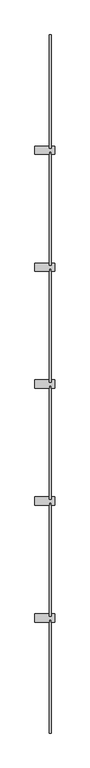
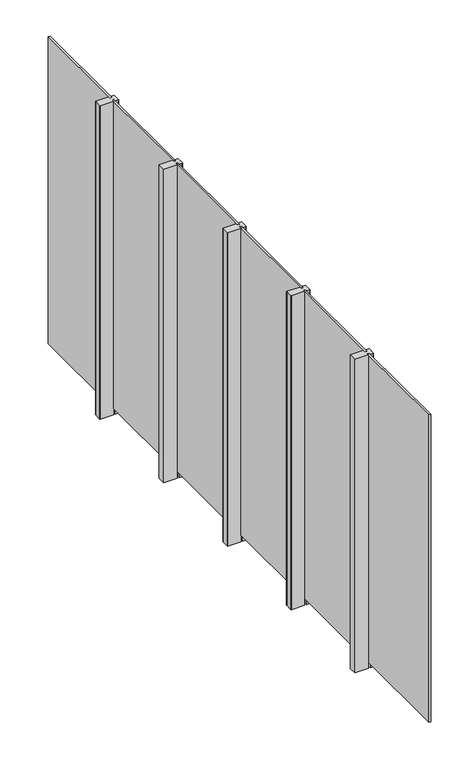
"""IFC4 building model written with IfcOpenShell, lengths in millimetres: railing geometry, TOP STEEL CHANNEL WELD_TOP MOUNT STRUC_GLASS_8'."""

import ifcopenshell
import ifcopenshell.guid

model = None  # the IFC model being written
_history = None  # IfcOwnerHistory: only IFC2X3 demands one
_inside = {}  # id of a spatial element -> (the spatial element, [elements in it])
_under = {}  # id of a project, library or spatial element -> (it, [spatial elements below it])
_declared = {}  # id of a project -> (the project, [libraries it declares])
_typed = {}  # id of a type object -> (the type object, [elements of that type])
_made_of = {}  # id of a material, layer set ... -> (it, [elements and type objects made of it])


def new_model(schema):
    """Start an empty IFC model of exactly this schema.

    Asked for "IFC4X3", IfcOpenShell would pick the latest addendum, in which some entities
    have other attributes; the version numbers below select the first issue.
    IFC2X3 requires an IfcOwnerHistory on every rooted entity: one is made here for all.
    """
    global model, _history
    if schema == "IFC4X3":
        model = ifcopenshell.file(schema_version=(4, 3, 0, 0))
    else:
        model = ifcopenshell.file(schema=schema)
    _inside.clear()
    _under.clear()
    _declared.clear()
    _typed.clear()
    _made_of.clear()
    _history = None
    if model.schema == "IFC2X3":
        org = make("IfcOrganization", Name="unknown")
        user = make(
            "IfcPersonAndOrganization",
            ThePerson=make("IfcPerson", FamilyName="unknown"),
            TheOrganization=org,
        )
        app = make(
            "IfcApplication",
            ApplicationDeveloper=org,
            Version="unknown",
            ApplicationFullName="unknown",
            ApplicationIdentifier="unknown",
        )
        _history = make(
            "IfcOwnerHistory",
            OwningUser=user,
            OwningApplication=app,
            ChangeAction="ADDED",
            CreationDate=0,
        )
    return model


def make(cls, **values):
    """One entity of the class cls with the attributes given. An attribute that is None is left unset."""
    return model.create_entity(
        cls, **{name: value for name, value in values.items() if value is not None}
    )


def rooted(cls, **values):
    """An entity with a GlobalId (a new one), such as an element, a storey or a relation."""
    return make(cls, GlobalId=ifcopenshell.guid.new(), OwnerHistory=_history, **values)


def si_unit(unit_type, name, prefix=None):
    """IfcSIUnit, for example si_unit("LENGTHUNIT", "METRE", prefix="MILLI")."""
    return make("IfcSIUnit", UnitType=unit_type, Prefix=prefix, Name=name)


def assignment(units):
    """IfcUnitAssignment: the units of a project."""
    return None if units is None else make("IfcUnitAssignment", Units=units)


def point(xyz):
    """IfcCartesianPoint."""
    return None if xyz is None else make("IfcCartesianPoint", Coordinates=xyz)


def direction(xyz):
    """IfcDirection."""
    return None if xyz is None else make("IfcDirection", DirectionRatios=xyz)


def frame(location, z_axis=None, x_axis=None):
    """IfcAxis2Placement3D, a coordinate frame: its origin and axes. An axis left out is left unset."""
    return make(
        "IfcAxis2Placement3D",
        Location=point(location),
        Axis=direction(z_axis),
        RefDirection=direction(x_axis),
    )


def frame_2d(location, x_axis=None):
    """IfcAxis2Placement2D, a coordinate frame in the plane: its origin and x axis."""
    return make(
        "IfcAxis2Placement2D", Location=point(location), RefDirection=direction(x_axis)
    )


def origin():
    """The frame at (0, 0, 0) with its axes left unset."""
    return frame((0.0, 0.0, 0.0))


def origin_with_axes():
    """The frame at (0, 0, 0) with the z axis (0, 0, 1) and the x axis (1, 0, 0) written out."""
    return frame((0.0, 0.0, 0.0), z_axis=(0.0, 0.0, 1.0), x_axis=(1.0, 0.0, 0.0))


def place(relative_to, where):
    """IfcLocalPlacement: puts the frame where relative to a parent placement (None: the world)."""
    return make(
        "IfcLocalPlacement", PlacementRelTo=relative_to, RelativePlacement=where
    )


def context(
    kind, dimensions, precision=None, world=None, true_north=None, identifier=None
):
    """IfcGeometricRepresentationContext, for example the 3D "Model" context."""
    return make(
        "IfcGeometricRepresentationContext",
        ContextIdentifier=identifier,
        ContextType=kind,
        CoordinateSpaceDimension=dimensions,
        Precision=precision,
        WorldCoordinateSystem=world,
        TrueNorth=true_north,
    )


def project(units=None, contexts=None):
    """IfcProject with its units and contexts."""
    return rooted(
        "IfcProject",
        Name="project",
        RepresentationContexts=contexts,
        UnitsInContext=assignment(units),
    )


def spatial(cls, under=None, at=None, **own):
    """A site, building, storey or space (cls), placed at a placement, below another one or the project."""
    s = rooted(cls, ObjectPlacement=at, **own)
    if under is not None:
        _under.setdefault(under.id(), (under, []))[1].append(s)
    return s


def polyline(points):
    """IfcPolyline through the points."""
    return make("IfcPolyline", Points=[point(p) for p in points])


def circle_curve(where, radius):
    """IfcCircle in the frame where."""
    return make("IfcCircle", Position=where, Radius=radius)


def trimmed(basis, trim1, trim2, sense, master):
    """IfcTrimmedCurve: the piece of a basis curve between two trims."""
    return make(
        "IfcTrimmedCurve",
        BasisCurve=basis,
        Trim1=trim1,
        Trim2=trim2,
        SenseAgreement=sense,
        MasterRepresentation=master,
    )


def segment(curve, same_sense, transition):
    """IfcCompositeCurveSegment."""
    return make(
        "IfcCompositeCurveSegment",
        Transition=transition,
        SameSense=same_sense,
        ParentCurve=curve,
    )


def composite_curve(segments, self_intersect=None):
    """IfcCompositeCurve: segments joined end to end."""
    return make("IfcCompositeCurve", Segments=segments, SelfIntersect=self_intersect)


def outline(outer, holes=None, kind="AREA"):
    """IfcArbitraryClosedProfileDef: a profile drawn as a closed curve; with holes, ...WithVoids."""
    if holes is None:
        return make("IfcArbitraryClosedProfileDef", ProfileType=kind, OuterCurve=outer)
    return make(
        "IfcArbitraryProfileDefWithVoids",
        ProfileType=kind,
        OuterCurve=outer,
        InnerCurves=holes,
    )


def extrude(swept, where, along, depth):
    """IfcExtrudedAreaSolid: the profile swept, set in the frame where, extruded along a direction by depth."""
    return make(
        "IfcExtrudedAreaSolid",
        SweptArea=swept,
        Position=where,
        ExtrudedDirection=direction(along),
        Depth=depth,
    )


def shape(context_of_items, identifier, shape_type, items):
    """IfcShapeRepresentation: the items that make up one representation, for example the "Body"."""
    return make(
        "IfcShapeRepresentation",
        ContextOfItems=context_of_items,
        RepresentationIdentifier=identifier,
        RepresentationType=shape_type,
        Items=items,
    )


def source(mapping_origin, context_of_items, identifier, shape_type, items):
    """IfcRepresentationMap: a shape defined once, which mapped items show again and again."""
    return make(
        "IfcRepresentationMap",
        MappingOrigin=mapping_origin,
        MappedRepresentation=shape(context_of_items, identifier, shape_type, items),
    )


def transform(
    local_origin,
    x_axis=None,
    y_axis=None,
    z_axis=None,
    scale=None,
    scale2=None,
    scale3=None,
    uniform=True,
):
    """IfcCartesianTransformationOperator3D, or its non-uniform kind. x_axis, y_axis, z_axis: its Axis1, 2, 3."""
    if uniform:
        return make(
            "IfcCartesianTransformationOperator3D",
            Axis1=direction(x_axis),
            Axis2=direction(y_axis),
            LocalOrigin=point(local_origin),
            Scale=scale,
            Axis3=direction(z_axis),
        )
    return make(
        "IfcCartesianTransformationOperator3DnonUniform",
        Axis1=direction(x_axis),
        Axis2=direction(y_axis),
        LocalOrigin=point(local_origin),
        Scale=scale,
        Axis3=direction(z_axis),
        Scale2=scale2,
        Scale3=scale3,
    )


def mapped(mapping_source, mapping_target):
    """IfcMappedItem: shows the shape of a source again, moved by a transform."""
    return make(
        "IfcMappedItem", MappingSource=mapping_source, MappingTarget=mapping_target
    )


def made_of(thing, what):
    """Note that an element or type object is made of a material, layer set ...; save() writes the relation."""
    if what is not None:
        _made_of.setdefault(what.id(), (what, []))[1].append(thing)
    return thing


def element(
    cls,
    number,
    at=None,
    inside=None,
    cuts=None,
    type_object=None,
    material=None,
    context=None,
    identifier="Body",
    shape_type=None,
    held_by="IfcProductDefinitionShape",
    body=None,
    shapes=None,
    **own,
):
    """One element of the class cls, such as IfcWall. Its Tag is "e" and its number.

    at: its placement. inside: the storey or other place that contains it. cuts: it is an
    opening in that element (IfcRelVoidsElement). A single representation is given by context,
    identifier, shape_type and body (its items); several are given by shapes. held_by: the class
    of the entity that holds the representations. save() writes the other relations.
    """
    e = rooted(cls, Tag="e%d" % number, ObjectPlacement=at, **own)
    if body is not None:
        shapes = [shape(context, identifier, shape_type, body)]
    if shapes is not None:
        e.Representation = make(held_by, Representations=shapes)
    if inside is not None:
        _inside.setdefault(inside.id(), (inside, []))[1].append(e)
    if cuts is not None:
        rooted(
            "IfcRelVoidsElement", RelatingBuildingElement=cuts, RelatedOpeningElement=e
        )
    if type_object is not None:
        _typed.setdefault(type_object.id(), (type_object, []))[1].append(e)
    return made_of(e, material)


def aggregate(whole, parts):
    """IfcRelAggregates: a whole, such as a stair, and the parts it consists of."""
    return rooted("IfcRelAggregates", RelatingObject=whole, RelatedObjects=parts)


def save(model, path):
    """Write the relations noted so far, then the file.

    IfcRelAggregates (storeys below a building ...), IfcRelContainedInSpatialStructure (elements
    in a storey), IfcRelDefinesByType, IfcRelAssociatesMaterial and IfcRelDeclares: one each for
    every whole, place, type object, material and project.
    """
    for whole, parts in _under.values():
        aggregate(whole, parts)
    for where, things in _inside.values():
        rooted(
            "IfcRelContainedInSpatialStructure",
            RelatedElements=things,
            RelatingStructure=where,
        )
    for kind, things in _typed.values():
        rooted("IfcRelDefinesByType", RelatedObjects=things, RelatingType=kind)
    for what, things in _made_of.values():
        rooted("IfcRelAssociatesMaterial", RelatedObjects=things, RelatingMaterial=what)
    for by, libraries in _declared.values():
        rooted("IfcRelDeclares", RelatingContext=by, RelatedDefinitions=libraries)
    model.write(path)


def railing_0a416ebc(model_context):
    return source(origin(), model_context, "Body", "SweptSolid", [
        extrude(outline(polyline([(86372.1514492, -65358.8077536), (86372.1514492, -64571.4077536), (86384.8514492, -64571.4077536), (86384.8514492, -65358.8077536), (86372.1514492, -65358.8077536)])), frame((0.0, 0.0, 50.8), z_axis=(0.0, 0.0, 1.0), x_axis=(1.0, 0.0, 0.0)), (0.0, 0.0, 1.0), 2387.6),
        extrude(outline(composite_curve([segment(polyline([(86372.1514492, -65343.7194067), (86372.1514492, -65358.8077536), (86384.8514492, -65358.8077536), (86384.8514492, -65343.7194067), (86409.7512922, -65343.7194067)]), True, "CONTINUOUS"), segment(trimmed(circle_curve(frame_2d((86409.7512922, -65344.2194067)), 0.5), [point((86409.7512922, -65343.7194067))], [point((86410.2512922, -65344.2194067))], False, "CARTESIAN"), True, "CONTINUOUS"), segment(polyline([(86410.2512922, -65344.2194067), (86410.2512922, -65400.3694067)]), True, "CONTINUOUS"), segment(trimmed(circle_curve(frame_2d((86409.7512922, -65400.3694067)), 0.5), [point((86410.2512922, -65400.3694067))], [point((86409.7512922, -65400.8694067))], False, "CARTESIAN"), True, "CONTINUOUS"), segment(polyline([(86409.7512922, -65400.8694067), (86384.8514492, -65400.8694067), (86384.8514492, -65384.2077536), (86372.1514492, -65384.2077536), (86372.1514492, -65400.8694067), (86273.1272922, -65400.8694067)]), True, "CONTINUOUS"), segment(trimmed(circle_curve(frame_2d((86273.1272922, -65400.3694067)), 0.5), [point((86273.1272922, -65400.8694067))], [point((86272.6272922, -65400.3694067))], False, "CARTESIAN"), True, "CONTINUOUS"), segment(polyline([(86272.6272922, -65400.3694067), (86272.6272922, -65344.2194067)]), True, "CONTINUOUS"), segment(trimmed(circle_curve(frame_2d((86273.1272922, -65344.2194067)), 0.5), [point((86272.6272922, -65344.2194067))], [point((86273.1272922, -65343.7194067))], False, "CARTESIAN"), True, "CONTINUOUS"), segment(polyline([(86273.1272922, -65343.7194067), (86372.1514492, -65343.7194067)]), True, "CONTINUOUS")], self_intersect=False)), origin_with_axes(), (0.0, 0.0, 1.0), 2438.4),
        extrude(outline(polyline([(86372.1514492, -66171.6077536), (86372.1514492, -65384.2077536), (86384.8514492, -65384.2077536), (86384.8514492, -66171.6077536), (86372.1514492, -66171.6077536)])), frame((0.0, 0.0, 50.8), z_axis=(0.0, 0.0, 1.0), x_axis=(1.0, 0.0, 0.0)), (0.0, 0.0, 1.0), 2387.6),
        extrude(outline(composite_curve([segment(polyline([(86372.1514492, -66156.5194067), (86372.1514492, -66171.6077536), (86384.8514492, -66171.6077536), (86384.8514492, -66156.5194067), (86409.7512922, -66156.5194067)]), True, "CONTINUOUS"), segment(trimmed(circle_curve(frame_2d((86409.7512922, -66157.0194067)), 0.5), [point((86409.7512922, -66156.5194067))], [point((86410.2512922, -66157.0194067))], False, "CARTESIAN"), True, "CONTINUOUS"), segment(polyline([(86410.2512922, -66157.0194067), (86410.2512922, -66213.1694067)]), True, "CONTINUOUS"), segment(trimmed(circle_curve(frame_2d((86409.7512922, -66213.1694067)), 0.5), [point((86410.2512922, -66213.1694067))], [point((86409.7512922, -66213.6694067))], False, "CARTESIAN"), True, "CONTINUOUS"), segment(polyline([(86409.7512922, -66213.6694067), (86384.8514492, -66213.6694067), (86384.8514492, -66197.0077536), (86372.1514492, -66197.0077536), (86372.1514492, -66213.6694067), (86273.1272922, -66213.6694067)]), True, "CONTINUOUS"), segment(trimmed(circle_curve(frame_2d((86273.1272922, -66213.1694067)), 0.5), [point((86273.1272922, -66213.6694067))], [point((86272.6272922, -66213.1694067))], False, "CARTESIAN"), True, "CONTINUOUS"), segment(polyline([(86272.6272922, -66213.1694067), (86272.6272922, -66157.0194067)]), True, "CONTINUOUS"), segment(trimmed(circle_curve(frame_2d((86273.1272922, -66157.0194067)), 0.5), [point((86272.6272922, -66157.0194067))], [point((86273.1272922, -66156.5194067))], False, "CARTESIAN"), True, "CONTINUOUS"), segment(polyline([(86273.1272922, -66156.5194067), (86372.1514492, -66156.5194067)]), True, "CONTINUOUS")], self_intersect=False)), origin_with_axes(), (0.0, 0.0, 1.0), 2438.4),
        extrude(outline(polyline([(86372.1514492, -66984.4077536), (86372.1514492, -66197.0077536), (86384.8514492, -66197.0077536), (86384.8514492, -66984.4077536), (86372.1514492, -66984.4077536)])), frame((0.0, 0.0, 50.8), z_axis=(0.0, 0.0, 1.0), x_axis=(1.0, 0.0, 0.0)), (0.0, 0.0, 1.0), 2387.6),
        extrude(outline(composite_curve([segment(polyline([(86372.1514492, -66969.3194067), (86372.1514492, -66984.4077536), (86384.8514492, -66984.4077536), (86384.8514492, -66969.3194067), (86409.7512922, -66969.3194067)]), True, "CONTINUOUS"), segment(trimmed(circle_curve(frame_2d((86409.7512922, -66969.8194067)), 0.5), [point((86409.7512922, -66969.3194067))], [point((86410.2512922, -66969.8194067))], False, "CARTESIAN"), True, "CONTINUOUS"), segment(polyline([(86410.2512922, -66969.8194067), (86410.2512922, -67025.9694067)]), True, "CONTINUOUS"), segment(trimmed(circle_curve(frame_2d((86409.7512922, -67025.9694067)), 0.5), [point((86410.2512922, -67025.9694067))], [point((86409.7512922, -67026.4694067))], False, "CARTESIAN"), True, "CONTINUOUS"), segment(polyline([(86409.7512922, -67026.4694067), (86384.8514492, -67026.4694067), (86384.8514492, -67009.8077536), (86372.1514492, -67009.8077536), (86372.1514492, -67026.4694067), (86273.1272922, -67026.4694067)]), True, "CONTINUOUS"), segment(trimmed(circle_curve(frame_2d((86273.1272922, -67025.9694067)), 0.5), [point((86273.1272922, -67026.4694067))], [point((86272.6272922, -67025.9694067))], False, "CARTESIAN"), True, "CONTINUOUS"), segment(polyline([(86272.6272922, -67025.9694067), (86272.6272922, -66969.8194067)]), True, "CONTINUOUS"), segment(trimmed(circle_curve(frame_2d((86273.1272922, -66969.8194067)), 0.5), [point((86272.6272922, -66969.8194067))], [point((86273.1272922, -66969.3194067))], False, "CARTESIAN"), True, "CONTINUOUS"), segment(polyline([(86273.1272922, -66969.3194067), (86372.1514492, -66969.3194067)]), True, "CONTINUOUS")], self_intersect=False)), origin_with_axes(), (0.0, 0.0, 1.0), 2438.4),
        extrude(outline(polyline([(86372.1514492, -67797.2077536), (86372.1514492, -67009.8077536), (86384.8514492, -67009.8077536), (86384.8514492, -67797.2077536), (86372.1514492, -67797.2077536)])), frame((0.0, 0.0, 50.8), z_axis=(0.0, 0.0, 1.0), x_axis=(1.0, 0.0, 0.0)), (0.0, 0.0, 1.0), 2387.6),
        extrude(outline(composite_curve([segment(polyline([(86372.1514492, -67782.1194067), (86372.1514492, -67797.2077536), (86384.8514492, -67797.2077536), (86384.8514492, -67782.1194067), (86409.7512922, -67782.1194067)]), True, "CONTINUOUS"), segment(trimmed(circle_curve(frame_2d((86409.7512922, -67782.6194067)), 0.5), [point((86409.7512922, -67782.1194067))], [point((86410.2512922, -67782.6194067))], False, "CARTESIAN"), True, "CONTINUOUS"), segment(polyline([(86410.2512922, -67782.6194067), (86410.2512922, -67838.7694067)]), True, "CONTINUOUS"), segment(trimmed(circle_curve(frame_2d((86409.7512922, -67838.7694067)), 0.5), [point((86410.2512922, -67838.7694067))], [point((86409.7512922, -67839.2694067))], False, "CARTESIAN"), True, "CONTINUOUS"), segment(polyline([(86409.7512922, -67839.2694067), (86384.8514492, -67839.2694067), (86384.8514492, -67822.6077536), (86372.1514492, -67822.6077536), (86372.1514492, -67839.2694067), (86273.1272922, -67839.2694067)]), True, "CONTINUOUS"), segment(trimmed(circle_curve(frame_2d((86273.1272922, -67838.7694067)), 0.5), [point((86273.1272922, -67839.2694067))], [point((86272.6272922, -67838.7694067))], False, "CARTESIAN"), True, "CONTINUOUS"), segment(polyline([(86272.6272922, -67838.7694067), (86272.6272922, -67782.6194067)]), True, "CONTINUOUS"), segment(trimmed(circle_curve(frame_2d((86273.1272922, -67782.6194067)), 0.5), [point((86272.6272922, -67782.6194067))], [point((86273.1272922, -67782.1194067))], False, "CARTESIAN"), True, "CONTINUOUS"), segment(polyline([(86273.1272922, -67782.1194067), (86372.1514492, -67782.1194067)]), True, "CONTINUOUS")], self_intersect=False)), origin_with_axes(), (0.0, 0.0, 1.0), 2438.4),
        extrude(outline(polyline([(86372.1514492, -68610.0077536), (86372.1514492, -67822.6077536), (86384.8514492, -67822.6077536), (86384.8514492, -68610.0077536), (86372.1514492, -68610.0077536)])), frame((0.0, 0.0, 50.8), z_axis=(0.0, 0.0, 1.0), x_axis=(1.0, 0.0, 0.0)), (0.0, 0.0, 1.0), 2387.6),
        extrude(outline(composite_curve([segment(polyline([(86372.1514492, -68594.9194067), (86372.1514492, -68610.0077536), (86384.8514492, -68610.0077536), (86384.8514492, -68594.9194067), (86409.7512922, -68594.9194067)]), True, "CONTINUOUS"), segment(trimmed(circle_curve(frame_2d((86409.7512922, -68595.4194067)), 0.5), [point((86409.7512922, -68594.9194067))], [point((86410.2512922, -68595.4194067))], False, "CARTESIAN"), True, "CONTINUOUS"), segment(polyline([(86410.2512922, -68595.4194067), (86410.2512922, -68651.5694067)]), True, "CONTINUOUS"), segment(trimmed(circle_curve(frame_2d((86409.7512922, -68651.5694067)), 0.5), [point((86410.2512922, -68651.5694067))], [point((86409.7512922, -68652.0694067))], False, "CARTESIAN"), True, "CONTINUOUS"), segment(polyline([(86409.7512922, -68652.0694067), (86384.8514492, -68652.0694067), (86384.8514492, -68635.4077536), (86372.1514492, -68635.4077536), (86372.1514492, -68652.0694067), (86273.1272922, -68652.0694067)]), True, "CONTINUOUS"), segment(trimmed(circle_curve(frame_2d((86273.1272922, -68651.5694067)), 0.5), [point((86273.1272922, -68652.0694067))], [point((86272.6272922, -68651.5694067))], False, "CARTESIAN"), True, "CONTINUOUS"), segment(polyline([(86272.6272922, -68651.5694067), (86272.6272922, -68595.4194067)]), True, "CONTINUOUS"), segment(trimmed(circle_curve(frame_2d((86273.1272922, -68595.4194067)), 0.5), [point((86272.6272922, -68595.4194067))], [point((86273.1272922, -68594.9194067))], False, "CARTESIAN"), True, "CONTINUOUS"), segment(polyline([(86273.1272922, -68594.9194067), (86372.1514492, -68594.9194067)]), True, "CONTINUOUS")], self_intersect=False)), origin_with_axes(), (0.0, 0.0, 1.0), 2438.4),
        extrude(outline(polyline([(86372.1514492, -69422.8077536), (86372.1514492, -68635.4077536), (86384.8514492, -68635.4077536), (86384.8514492, -69422.8077536), (86372.1514492, -69422.8077536)])), frame((0.0, 0.0, 50.8), z_axis=(0.0, 0.0, 1.0), x_axis=(1.0, 0.0, 0.0)), (0.0, 0.0, 1.0), 2387.6),
    ])


if __name__ == "__main__":
    model = new_model("IFC4")
    model_context = context("Model", 3, world=origin())
    ifc_project = project(units=[si_unit("LENGTHUNIT", "METRE", prefix="MILLI")], contexts=[model_context])
    site = spatial("IfcSite", under=ifc_project)
    building = spatial("IfcBuilding", under=site)
    placement = place(None, origin())
    railing_shape = railing_0a416ebc(model_context)
    element("IfcRailing", 1, ObjectType="TOP STEEL CHANNEL WELD_TOP MOUNT STRUC_GLASS_8'", at=placement, inside=building, context=model_context, shape_type="MappedRepresentation", body=[
        mapped(railing_shape, transform((0.0, 0.0, 0.0), x_axis=(1.0, 0.0, 0.0), y_axis=(0.0, 1.0, 0.0), z_axis=(0.0, 0.0, 1.0))),
    ])
    save(model, "model.ifc")
